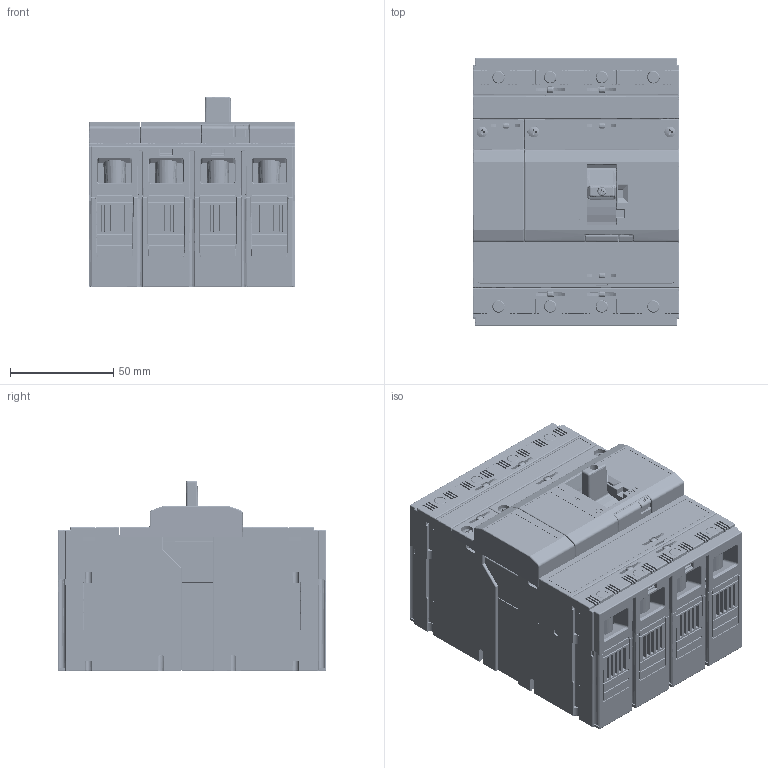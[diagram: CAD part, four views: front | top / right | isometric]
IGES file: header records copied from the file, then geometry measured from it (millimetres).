
Start section: SolidWorks IGES file using analytic representation for surfaces
Global section: file name: U:\14_RD\05_Technical_office\04_Office\Hrdinova\3D modely - IGES\Modeion\BC160NT405_406.IGS; native system: SolidWorks 2011; preprocessor: SolidWorks 2011; author: adhrja3; date: 170615.140300; units: millimetre
Bounding box: 100 x 130 x 92.5 mm (x, y, z)
Surface area: 181644.1 mm2 (no closed solid volume)
Topology: 0 solids, 0 shells, 6397 faces, 50927 edges, 50860 vertices
Faces by surface type: bspline 4161, revolution 2236
